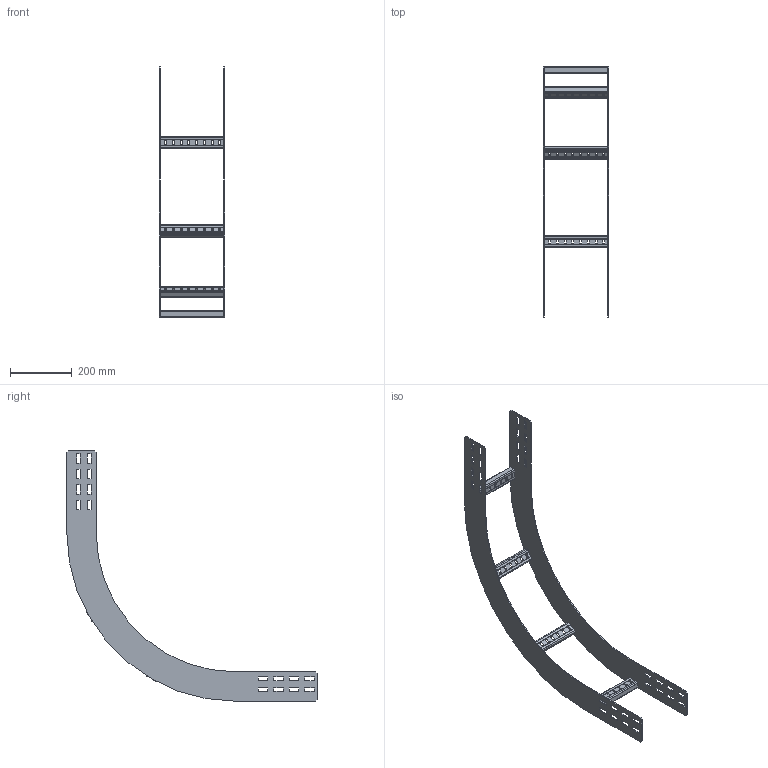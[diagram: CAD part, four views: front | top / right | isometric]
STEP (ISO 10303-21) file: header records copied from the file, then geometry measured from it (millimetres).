
FILE_DESCRIPTION(('Creo Elements/Direct Modeling STEP Export'),'2;1');
FILE_NAME('WPIR10-20-90-45.stp','2016-06-01T14:58:56',(''),(''),'PTC Creo Elements/Direct Modeling STEP processor for AP214 (Solid Model)','PTC Creo Elements/Direct Modeling 19.0C 15-Aug-2015 (C) Parametric Technology GmbH','');
FILE_SCHEMA(('AUTOMOTIVE_DESIGN { 1 0 10303 214 1 1 1 1 }'));
Length unit declared in the file: millimetre
Products named in the file (3): WPIBG100_450; WPHBS20; WPIR10-20-90-45
Assembly tree (6 placements, depth 2):
  WPIR10-20-90-45
    WPHBS20  x4
    WPIBG100_450  x2
Bounding box: 211 x 810 x 810 mm (x, y, z)
Volume: 833863 mm3; surface area: 666144.8 mm2
Topology: 6 solids, 6 shells, 444 faces, 1296 edges, 864 vertices
Faces by surface type: plane 304, cylinder 140
Entity records: 5137 total; most frequent: CARTESIAN_POINT 887, ORIENTED_EDGE 876, DIRECTION 824, EDGE_CURVE 438, VECTOR 366, LINE 366, VERTEX_POINT 292, AXIS2_PLACEMENT_3D 229
